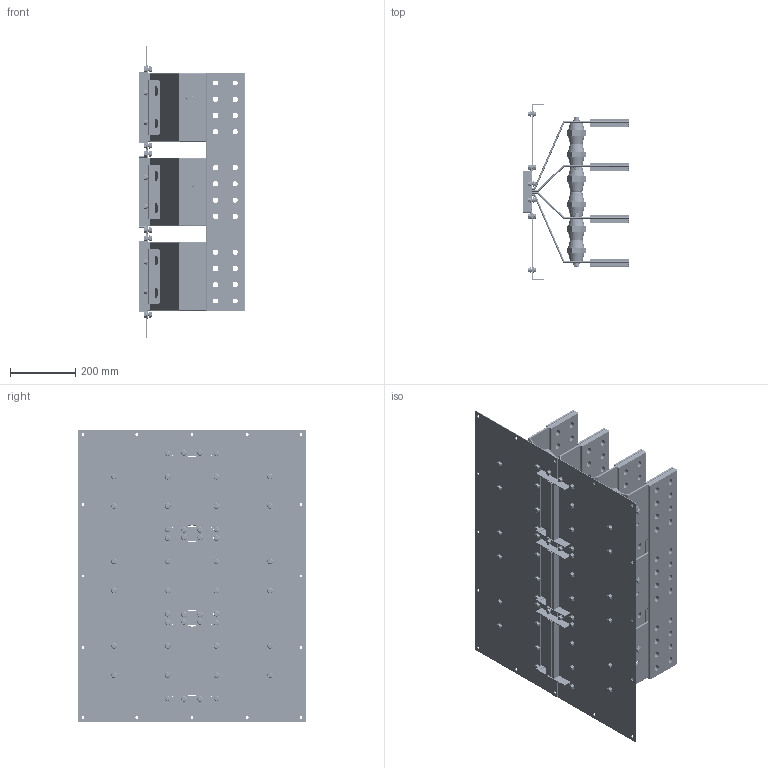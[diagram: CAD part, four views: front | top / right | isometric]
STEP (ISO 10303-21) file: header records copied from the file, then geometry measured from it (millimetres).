
FILE_DESCRIPTION(('CATIA V5 STEP','CAx-IF Rec.Pracs.--- Model Styling and Organization---1.5--- 2016-08-15','CAx-IF Rec.Pracs.---Supplemental Geometry---1.0---2011-11-01','CAx-IF Rec.Pracs.--- Composite Materials ---1.1---2010-07-15'),'2;1');
FILE_NAME('K:\COSCN 2011\32372311_RiduzioneSezioniBarre\03_Studio\__Modelli semplificati\XCP_UB semplificati per studi\XCP-HP_UB_4C_Pe_CRT_Assieme\Al\XCP-HP_UB_4C_Pe_T_Assieme - 5000A Al_CRT\XCP-HP_UB_4C_Pe_T_Assieme - 5000A Al_CRT.stp','2025-05-12T10:02:52+00:00',('Utente Bticino'),('Bticino S.p.A.'),'CATIA Version 5-6 Release 2020 SP5','CATIA V5 STEP AP214 v2','none');
FILE_SCHEMA(('AUTOMOTIVE_DESIGN { 1 0 10303 214 1 1 1 1 }'));
Products named in the file (40): XCP-HP_UB_4C_Pe_T_Assieme - 5000A Al_CRT; XCP-HP_UB_4C_Pe_T_Lamiere_5000A Al_CRT; XCP-HP_UB_4C_Pe_T_PaccoBarre_5000A Al_CRT; XCP-HP_UB_4C_Pe_T_PaccoBarre_5000A Al_CRT_1; XCP-HP_UB_4C_Pe_T_PaccoBarre_5000A Al_CRT_2; XCP-HP_UB_4C_Pe_T - 5000A Al_Bandelle parallelo_CRT; 130184; 130184_1; 00750033 - RONDELLA PIANA 4.8 D.12 UNI 6592 ZB; Ass_M10x25.1; 00740025 M10x25 UNI5739; Rondella spac M10 UNI 1751; 00750005; 130184_2; 130184_3; 00750033 - RONDELLA PIANA 4.8 D.12 UNI 6592 ZB_1; 130184_4; 00750033 - RONDELLA PIANA 4.8 D.12 UNI 6592 ZB_2; 130184_5; 130184_6; 130184_7; 130184_8; 130184_9; 00750033 - RONDELLA PIANA 4.8 D.12 UNI 6592 ZB_3; 00750033 - RONDELLA PIANA 4.8 D.12 UNI 6592 ZB_4; 00750033 - RONDELLA PIANA 4.8 D.12 UNI 6592 ZB_5; 00750033 - RONDELLA PIANA 4.8 D.12 UNI 6592 ZB_6; 130184_10; 130184_11; 130184_12; 130184_13; 130184_14; 00750033 - RONDELLA PIANA 4.8 D.12 UNI 6592 ZB_7; 130184_15; 130184_16; 00750033 - RONDELLA PIANA 4.8 D.12 UNI 6592 ZB_8; 130184_17; Ass Vite+dado M8; Steel hex flanged SCREW M12x16; Steel hex flanged NUT M8
Assembly tree (103 placements, depth 3):
  XCP-HP_UB_4C_Pe_T_Assieme - 5000A Al_CRT
    XCP-HP_UB_4C_Pe_T_Lamiere_5000A Al_CRT
    XCP-HP_UB_4C_Pe_T_PaccoBarre_5000A Al_CRT
    XCP-HP_UB_4C_Pe_T_PaccoBarre_5000A Al_CRT_1
    XCP-HP_UB_4C_Pe_T_PaccoBarre_5000A Al_CRT_2
    XCP-HP_UB_4C_Pe_T - 5000A Al_Bandelle parallelo_CRT
    130184
    130184_1
    00750033 - RONDELLA PIANA 4.8 D.12 UNI 6592 ZB
    Ass_M10x25.1  x18
      00740025 M10x25 UNI5739
      Rondella spac M10 UNI 1751
      00750005
    130184_2
    130184_3
    00750033 - RONDELLA PIANA 4.8 D.12 UNI 6592 ZB_1
    130184_4
    00750033 - RONDELLA PIANA 4.8 D.12 UNI 6592 ZB_2
    130184_5
    130184_6
    130184_7
    130184_8
    130184_9
    00750033 - RONDELLA PIANA 4.8 D.12 UNI 6592 ZB_3
    00750033 - RONDELLA PIANA 4.8 D.12 UNI 6592 ZB_4
    00750033 - RONDELLA PIANA 4.8 D.12 UNI 6592 ZB_5
    00750033 - RONDELLA PIANA 4.8 D.12 UNI 6592 ZB_6
    130184_10
    130184_11
    130184_12
    130184_13
    130184_14
    00750033 - RONDELLA PIANA 4.8 D.12 UNI 6592 ZB_7
    130184_15
    130184_16
    00750033 - RONDELLA PIANA 4.8 D.12 UNI 6592 ZB_8
    130184_17
    Ass Vite+dado M8  x48
      Steel hex flanged SCREW M12x16
      Steel hex flanged NUT M8
Bounding box: 325 x 700 x 900 mm (x, y, z)
Volume: 15438207.5 mm3; surface area: 6270170.6 mm2
Topology: 221 solids, 221 shells, 5884 faces, 14652 edges, 9324 vertices
Faces by surface type: plane 2684, cylinder 1904, cone 600, bspline 528, torus 168
Entity records: 91561 total; most frequent: CARTESIAN_POINT 17318, ORIENTED_EDGE 16544, DIRECTION 11818, EDGE_CURVE 8272, VERTEX_POINT 5372, VECTOR 5196, LINE 5196, AXIS2_PLACEMENT_3D 4786
